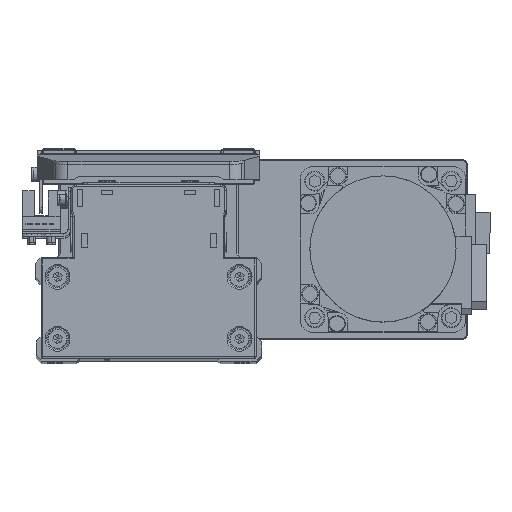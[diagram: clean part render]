
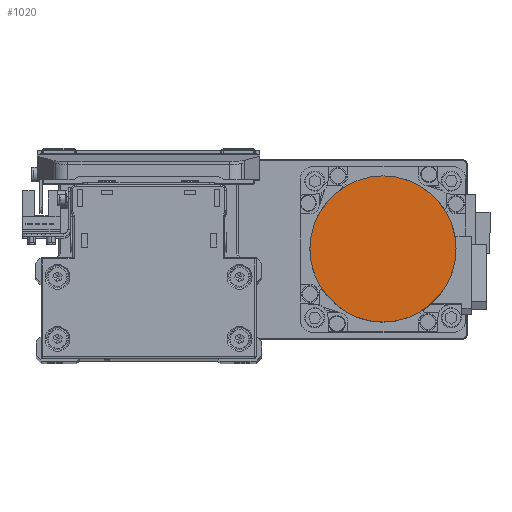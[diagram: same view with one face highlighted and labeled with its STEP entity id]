
A CAD part, top view. The second image highlights one B-rep face of the part: STEP entity #1020.
In plain terms, the highlighted planar face has unit normal (0, 0, 1) as drawn and (0, 0, -1) by its records, which use the part's own axes.
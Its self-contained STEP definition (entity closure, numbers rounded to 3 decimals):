
#728 = DIRECTION ( 'NONE',  ( 0., 0., 1. ) ) ;
#796 = ORIENTED_EDGE ( 'NONE', *, *, #15934, .F. ) ;
#1020 = ADVANCED_FACE ( 'NONE', ( #23810 ), #36387, .F. ) ;
#1453 = CIRCLE ( 'NONE', #29736, 26.5 ) ;
#4024 = CIRCLE ( 'NONE', #9299, 26.5 ) ;
#8162 = CARTESIAN_POINT ( 'NONE',  ( 0., 0., -109.7 ) ) ;
#9299 = AXIS2_PLACEMENT_3D ( 'NONE', #26701, #39278, #11080 ) ;
#11080 = DIRECTION ( 'NONE',  ( 1., 0., 0. ) ) ;
#11565 = EDGE_LOOP ( 'NONE', ( #796, #22411 ) ) ;
#13289 = DIRECTION ( 'NONE',  ( -1., 0., 0. ) ) ;
#14345 = CARTESIAN_POINT ( 'NONE',  ( -26.5, 0., -109.7 ) ) ;
#15500 = VERTEX_POINT ( 'NONE', #34627 ) ;
#15934 = EDGE_CURVE ( 'NONE', #21397, #15500, #1453, .T. ) ;
#20738 = DIRECTION ( 'NONE',  ( 0., 0., 1. ) ) ;
#21397 = VERTEX_POINT ( 'NONE', #14345 ) ;
#22411 = ORIENTED_EDGE ( 'NONE', *, *, #35486, .F. ) ;
#23810 = FACE_OUTER_BOUND ( 'NONE', #11565, .T. ) ;
#26701 = CARTESIAN_POINT ( 'NONE',  ( 0., 0., -109.7 ) ) ;
#28940 = CARTESIAN_POINT ( 'NONE',  ( 0., 0., -109.7 ) ) ;
#29736 = AXIS2_PLACEMENT_3D ( 'NONE', #28940, #728, #13289 ) ;
#33298 = DIRECTION ( 'NONE',  ( 1., 0., 0. ) ) ;
#34627 = CARTESIAN_POINT ( 'NONE',  ( 26.5, 0., -109.7 ) ) ;
#35486 = EDGE_CURVE ( 'NONE', #15500, #21397, #4024, .T. ) ;
#36080 = AXIS2_PLACEMENT_3D ( 'NONE', #8162, #20738, #33298 ) ;
#36387 = PLANE ( 'NONE',  #36080 ) ;
#39278 = DIRECTION ( 'NONE',  ( 0., 0., 1. ) ) ;
